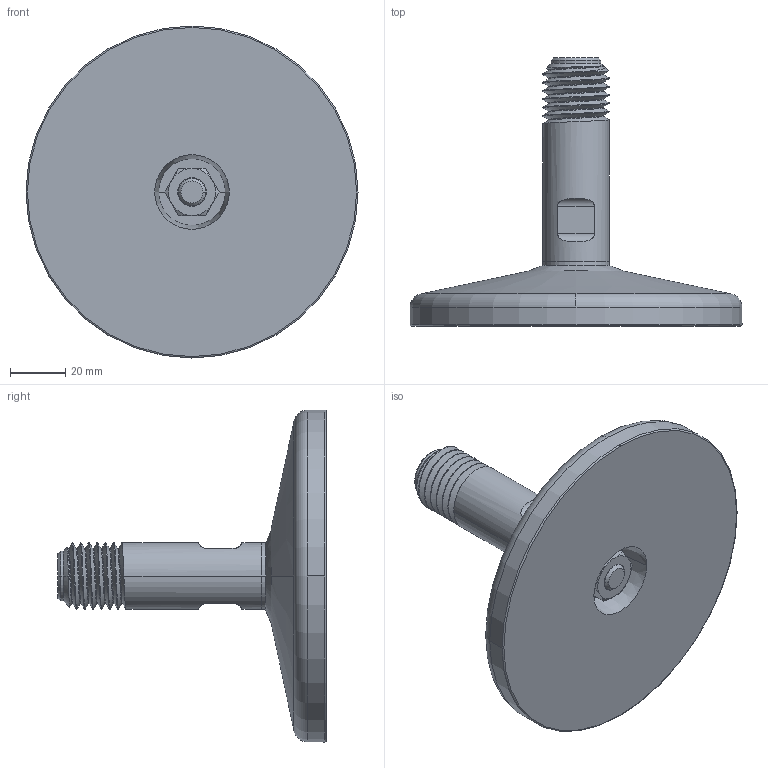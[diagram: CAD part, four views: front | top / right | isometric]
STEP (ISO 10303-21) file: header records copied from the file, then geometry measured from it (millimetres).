
FILE_DESCRIPTION((''),'1');
FILE_NAME('LALAM_M24.step','2024-03-04T09:06:06',(''),(''),'','','');
FILE_SCHEMA(('AUTOMOTIVE_DESIGN { 1 0 10303 214 1 1 1 1 }'));
Products named in the file (6): LALAM part 01; LALAM part 03; LALAM part 05; LALAM part 06; LALAM nut 01
Assembly tree (5 placements, depth 3):
  LALAM part 01
    LALAM part 01
      LALAM part 03
      LALAM part 05
      LALAM part 06
      LALAM nut 01
Bounding box: 120 x 97 x 120 mm (x, y, z)
Volume: 195559.9 mm3; surface area: 37396.2 mm2
Topology: 4 solids, 4 shells, 103 faces, 242 edges, 152 vertices
Faces by surface type: cylinder 36, cone 31, plane 19, torus 12, bspline 3, sphere 2
Entity records: 18222 total; most frequent: CARTESIAN_POINT 15720, DIRECTION 502, ORIENTED_EDGE 484, EDGE_CURVE 242, AXIS2_PLACEMENT_3D 217, VERTEX_POINT 152, EDGE_LOOP 114, CIRCLE 108
